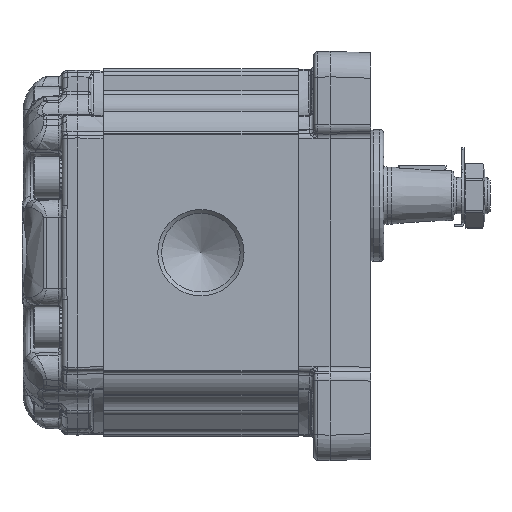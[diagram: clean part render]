
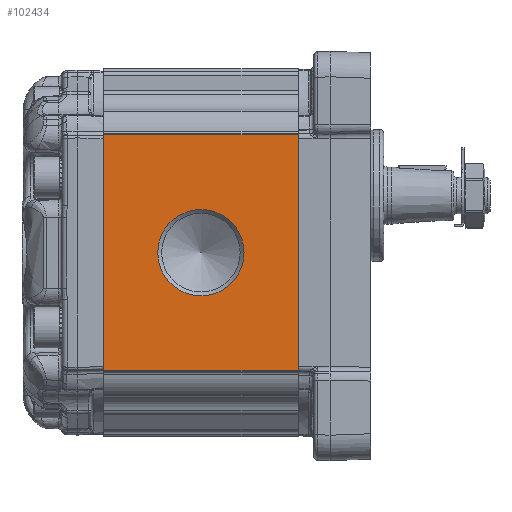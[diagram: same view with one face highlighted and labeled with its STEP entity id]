
A CAD part, left-side view. The second image highlights one B-rep face of the part: STEP entity #102434.
In plain terms, the highlighted planar face has unit normal (-1, 0, 0).
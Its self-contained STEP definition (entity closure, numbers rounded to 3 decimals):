
#5807=PLANE('',#108474);
#8476=LINE('',#162314,#12683);
#8487=LINE('',#162399,#12694);
#8525=LINE('',#162499,#12732);
#8526=LINE('',#162500,#12733);
#12683=VECTOR('',#121856,1000.);
#12694=VECTOR('',#121931,1000.);
#12732=VECTOR('',#122049,1000.);
#12733=VECTOR('',#122050,1000.);
#27102=ORIENTED_EDGE('',*,*,#44854,.T.);
#27103=ORIENTED_EDGE('',*,*,#44758,.F.);
#27104=ORIENTED_EDGE('',*,*,#44855,.T.);
#27105=ORIENTED_EDGE('',*,*,#44800,.F.);
#27106=ORIENTED_EDGE('',*,*,#44856,.T.);
#44758=EDGE_CURVE('',#54504,#54505,#8476,.T.);
#44800=EDGE_CURVE('',#54546,#54547,#8487,.T.);
#44854=EDGE_CURVE('',#54568,#54568,#60326,.F.);
#44855=EDGE_CURVE('',#54504,#54547,#8525,.F.);
#44856=EDGE_CURVE('',#54546,#54505,#8526,.F.);
#54504=VERTEX_POINT('',#162313);
#54505=VERTEX_POINT('',#162315);
#54546=VERTEX_POINT('',#162398);
#54547=VERTEX_POINT('',#162400);
#54568=VERTEX_POINT('',#162498);
#60326=CIRCLE('',#108475,16.646);
#64342=EDGE_LOOP('',(#27102));
#64343=EDGE_LOOP('',(#27103,#27104,#27105,#27106));
#68749=FACE_BOUND('',#64342,.T.);
#68750=FACE_BOUND('',#64343,.T.);
#102434=ADVANCED_FACE('',(#68749,#68750),#5807,.T.);
#108474=AXIS2_PLACEMENT_3D('',#162496,#122045,#122046);
#108475=AXIS2_PLACEMENT_3D('',#162497,#122047,#122048);
#121856=DIRECTION('',(0.,0.,1.));
#121931=DIRECTION('',(0.,0.,-1.));
#122045=DIRECTION('',(-1.,0.,0.));
#122046=DIRECTION('',(0.,0.,-1.));
#122047=DIRECTION('',(-1.,0.,0.));
#122048=DIRECTION('',(0.,0.,-1.));
#122049=DIRECTION('',(0.,1.,0.));
#122050=DIRECTION('',(0.,-1.,0.));
#162313=CARTESIAN_POINT('',(-57.5,75.,-45.5));
#162314=CARTESIAN_POINT('',(-57.5,75.,-84.819));
#162315=CARTESIAN_POINT('',(-57.5,75.,45.5));
#162398=CARTESIAN_POINT('',(-57.5,0.,45.5));
#162399=CARTESIAN_POINT('',(-57.5,0.,-44.978));
#162400=CARTESIAN_POINT('',(-57.5,0.,-45.5));
#162496=CARTESIAN_POINT('',(-57.5,-149.417,-84.819));
#162497=CARTESIAN_POINT('',(-57.5,37.5,0.));
#162498=CARTESIAN_POINT('',(-57.5,37.5,-16.646));
#162499=CARTESIAN_POINT('',(-57.5,-149.417,-45.5));
#162500=CARTESIAN_POINT('',(-57.5,-149.417,45.5));
